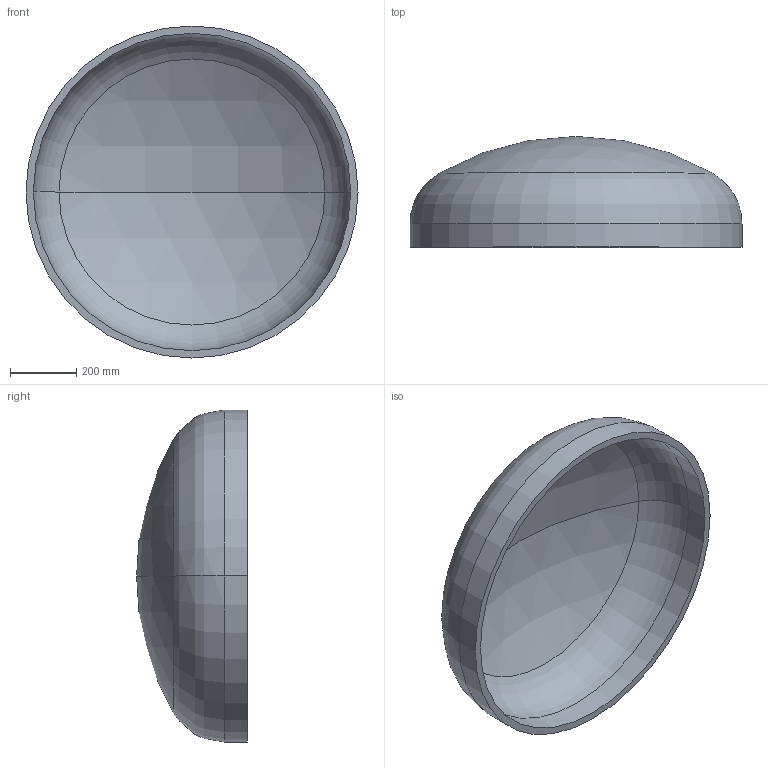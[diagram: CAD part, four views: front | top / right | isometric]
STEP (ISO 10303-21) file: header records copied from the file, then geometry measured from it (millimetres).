
FILE_DESCRIPTION (( 'STEP AP203' ), '1' );
FILE_NAME ('DIN 28013 Korbbogenform_-_Boden DIN 28013 - 1000 x 70 - I - s=22.step', '2016-07-01T08:44:38', ( '' ), ( '' ), 'SwSTEP 2.0', 'SolidWorks 2013', '' );
FILE_SCHEMA (( 'CONFIG_CONTROL_DESIGN' ));
Length unit declared in the file: millimetre
Products named in the file (1): DIN 28013 Korbbogenform_-_Boden DIN 28013 - 1000 x 70 - I - s=22
Bounding box: 1000 x 333.7 x 1000 mm (x, y, z)
Volume: 28010294.9 mm3; surface area: 2614997.9 mm2
Topology: 1 solids, 1 shells, 13 faces, 24 edges, 14 vertices
Faces by surface type: torus 4, cylinder 4, sphere 4, plane 1
Entity records: 407 total; most frequent: DIRECTION 72, CARTESIAN_POINT 52, ORIENTED_EDGE 48, AXIS2_PLACEMENT_3D 34, EDGE_CURVE 24, CIRCLE 20, VERTEX_POINT 14, EDGE_LOOP 14
